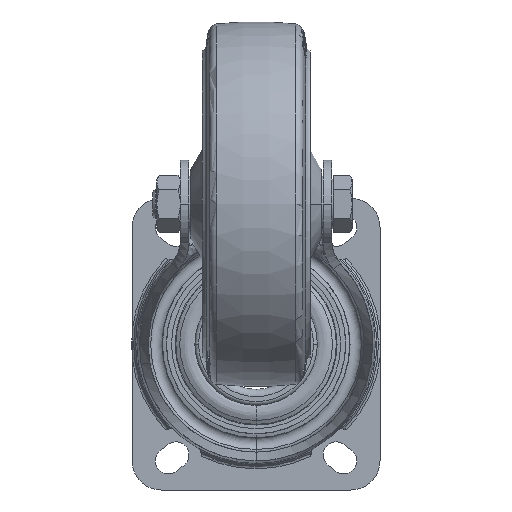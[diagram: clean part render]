
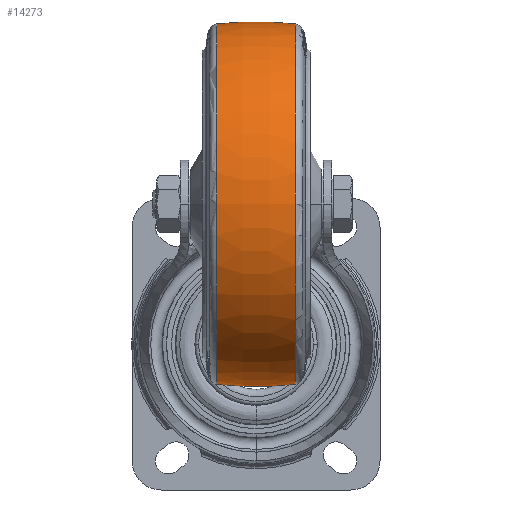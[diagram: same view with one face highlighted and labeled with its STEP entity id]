
A CAD part, front view. The second image highlights one B-rep face of the part: STEP entity #14273.
In plain terms, the highlighted toroidal (fillet/blend) face has major radius 57.5 mm and minor radius 120 mm.
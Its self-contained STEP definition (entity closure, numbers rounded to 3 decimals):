
#113 = DIRECTION ( 'NONE',  ( 0., 1., 0. ) ) ;
#4961 = CARTESIAN_POINT ( 'NONE',  ( 13.435, -61.746, 0. ) ) ;
#5089 = DIRECTION ( 'NONE',  ( 1., 0., 0. ) ) ;
#10653 = DIRECTION ( 'NONE',  ( 0., 0., -1. ) ) ;
#14091 = EDGE_CURVE ( 'NONE', #71437, #85402, #24574, .T. ) ;
#14273 = ADVANCED_FACE ( 'NONE', ( #123280 ), #100728, .T. ) ;
#18712 = ORIENTED_EDGE ( 'NONE', *, *, #85555, .F. ) ;
#23211 = CARTESIAN_POINT ( 'NONE',  ( -13.435, 0., 0. ) ) ;
#24041 = CARTESIAN_POINT ( 'NONE',  ( -13.435, -61.746, 0. ) ) ;
#24574 = CIRCLE ( 'NONE', #128874, 120. ) ;
#27118 = AXIS2_PLACEMENT_3D ( 'NONE', #76046, #10653, #65379 ) ;
#30176 = CARTESIAN_POINT ( 'NONE',  ( 0., -57.5, 0. ) ) ;
#31487 = AXIS2_PLACEMENT_3D ( 'NONE', #71389, #5089, #61251 ) ;
#33049 = CARTESIAN_POINT ( 'NONE',  ( 13.435, 0., 0. ) ) ;
#36958 = CARTESIAN_POINT ( 'NONE',  ( -13.435, 61.746, 0. ) ) ;
#41774 = EDGE_CURVE ( 'NONE', #124939, #53187, #94470, .T. ) ;
#53187 = VERTEX_POINT ( 'NONE', #24041 ) ;
#53711 = ORIENTED_EDGE ( 'NONE', *, *, #14091, .T. ) ;
#55198 = DIRECTION ( 'NONE',  ( 1., 0., 0. ) ) ;
#61251 = DIRECTION ( 'NONE',  ( 0., 1., 0. ) ) ;
#65379 = DIRECTION ( 'NONE',  ( 0.112, -0.994, 0. ) ) ;
#71389 = CARTESIAN_POINT ( 'NONE',  ( 0., 0., 0. ) ) ;
#71437 = VERTEX_POINT ( 'NONE', #73680 ) ;
#73680 = CARTESIAN_POINT ( 'NONE',  ( 13.435, 61.746, 0. ) ) ;
#76046 = CARTESIAN_POINT ( 'NONE',  ( 0., 57.5, 0. ) ) ;
#85402 = VERTEX_POINT ( 'NONE', #36958 ) ;
#85555 = EDGE_CURVE ( 'NONE', #71437, #124939, #100359, .T. ) ;
#86433 = AXIS2_PLACEMENT_3D ( 'NONE', #23211, #55198, #133191 ) ;
#86754 = ORIENTED_EDGE ( 'NONE', *, *, #41774, .F. ) ;
#91228 = ORIENTED_EDGE ( 'NONE', *, *, #94746, .T. ) ;
#94470 = CIRCLE ( 'NONE', #27118, 120. ) ;
#94746 = EDGE_CURVE ( 'NONE', #85402, #53187, #143034, .T. ) ;
#100359 = CIRCLE ( 'NONE', #131031, 61.746 ) ;
#100728 = TOROIDAL_SURFACE ( 'NONE', #31487, -57.5, 120. ) ;
#106615 = DIRECTION ( 'NONE',  ( 0.112, 0.994, 0. ) ) ;
#116807 = DIRECTION ( 'NONE',  ( 0., 0., 1. ) ) ;
#123280 = FACE_OUTER_BOUND ( 'NONE', #124910, .T. ) ;
#124910 = EDGE_LOOP ( 'NONE', ( #91228, #86754, #18712, #53711 ) ) ;
#124939 = VERTEX_POINT ( 'NONE', #4961 ) ;
#128874 = AXIS2_PLACEMENT_3D ( 'NONE', #30176, #116807, #106615 ) ;
#131031 = AXIS2_PLACEMENT_3D ( 'NONE', #33049, #132838, #113 ) ;
#132838 = DIRECTION ( 'NONE',  ( 1., 0., 0. ) ) ;
#133191 = DIRECTION ( 'NONE',  ( 0., 1., 0. ) ) ;
#143034 = CIRCLE ( 'NONE', #86433, 61.746 ) ;
